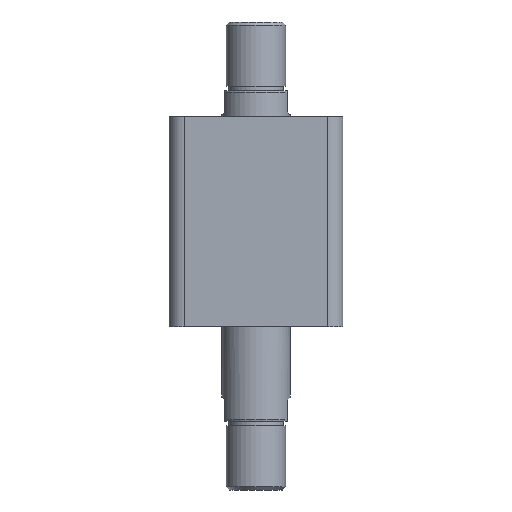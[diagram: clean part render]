
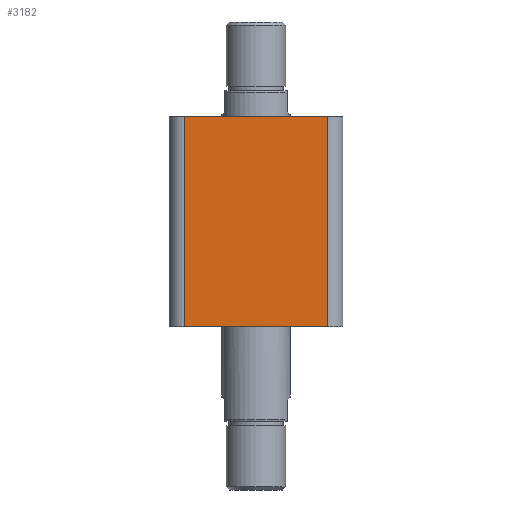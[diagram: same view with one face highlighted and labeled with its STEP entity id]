
A CAD part, front view. The second image highlights one B-rep face of the part: STEP entity #3182.
In plain terms, the highlighted planar face has unit normal (0, -1, 0).
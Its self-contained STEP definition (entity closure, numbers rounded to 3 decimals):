
#55 = CARTESIAN_POINT ( 'NONE',  ( 47., -57., 138. ) ) ;
#174 = VERTEX_POINT ( 'NONE', #55 ) ;
#376 = EDGE_LOOP ( 'NONE', ( #1677, #1678, #1679, #1680 ) ) ;
#573 = LINE ( 'NONE', #3313, #575 ) ;
#575 = VECTOR ( 'NONE', #3314, 1000. ) ;
#576 = LINE ( 'NONE', #3318, #578 ) ;
#578 = VECTOR ( 'NONE', #3319, 1000. ) ;
#742 = FACE_OUTER_BOUND ( 'NONE', #376, .T. ) ;
#1138 = CARTESIAN_POINT ( 'NONE',  ( -57., -57., 138. ) ) ;
#1145 = PLANE ( 'NONE',  #2868 ) ;
#1147 = DIRECTION ( 'NONE',  ( 0., 1., 0. ) ) ;
#1148 = DIRECTION ( 'NONE',  ( 0., 0., 1. ) ) ;
#1237 = EDGE_CURVE ( 'NONE', #2049, #174, #2085, .T. ) ;
#1238 = EDGE_CURVE ( 'NONE', #2063, #2049, #2088, .T. ) ;
#1458 = EDGE_CURVE ( 'NONE', #2058, #2063, #573, .T. ) ;
#1460 = EDGE_CURVE ( 'NONE', #2058, #174, #576, .T. ) ;
#1677 = ORIENTED_EDGE ( 'NONE', *, *, #1238, .T. ) ;
#1678 = ORIENTED_EDGE ( 'NONE', *, *, #1237, .T. ) ;
#1679 = ORIENTED_EDGE ( 'NONE', *, *, #1460, .F. ) ;
#1680 = ORIENTED_EDGE ( 'NONE', *, *, #1458, .T. ) ;
#2049 = VERTEX_POINT ( 'NONE', #3328 ) ;
#2058 = VERTEX_POINT ( 'NONE', #3340 ) ;
#2063 = VERTEX_POINT ( 'NONE', #3345 ) ;
#2085 = LINE ( 'NONE', #2992, #2090 ) ;
#2088 = LINE ( 'NONE', #2994, #2092 ) ;
#2090 = VECTOR ( 'NONE', #3016, 1000. ) ;
#2092 = VECTOR ( 'NONE', #2986, 1000. ) ;
#2868 = AXIS2_PLACEMENT_3D ( 'NONE', #1138, #1147, #1148 ) ;
#2986 = DIRECTION ( 'NONE',  ( 1., 0., 0. ) ) ;
#2992 = CARTESIAN_POINT ( 'NONE',  ( 47., -57., 138. ) ) ;
#2994 = CARTESIAN_POINT ( 'NONE',  ( -57., -57., 0. ) ) ;
#3016 = DIRECTION ( 'NONE',  ( 0., 0., 1. ) ) ;
#3182 = ADVANCED_FACE ( 'NONE', ( #742 ), #1145, .F. ) ;
#3313 = CARTESIAN_POINT ( 'NONE',  ( -47., -57., 138. ) ) ;
#3314 = DIRECTION ( 'NONE',  ( 0., 0., -1. ) ) ;
#3318 = CARTESIAN_POINT ( 'NONE',  ( -57., -57., 138. ) ) ;
#3319 = DIRECTION ( 'NONE',  ( 1., 0., 0. ) ) ;
#3328 = CARTESIAN_POINT ( 'NONE',  ( 47., -57., 0. ) ) ;
#3340 = CARTESIAN_POINT ( 'NONE',  ( -47., -57., 138. ) ) ;
#3345 = CARTESIAN_POINT ( 'NONE',  ( -47., -57., 0. ) ) ;
